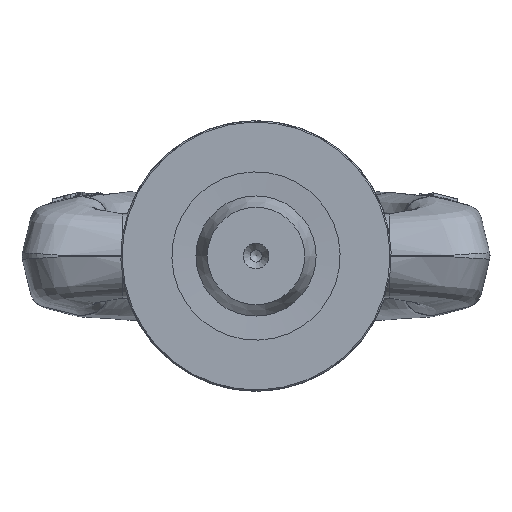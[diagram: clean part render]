
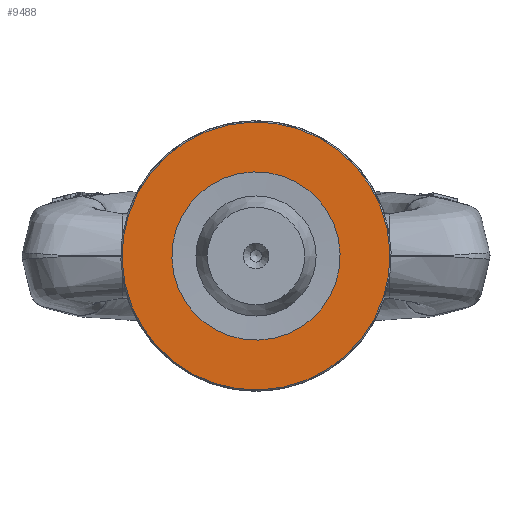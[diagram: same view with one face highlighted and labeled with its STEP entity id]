
A CAD part, front view. The second image highlights one B-rep face of the part: STEP entity #9488.
In plain terms, the highlighted planar face has unit normal (0, -1, 0) as drawn and (0, 0, -1) by its records, which use the part's own axes.
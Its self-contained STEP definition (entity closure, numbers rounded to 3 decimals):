
#2293=PLANE('',#10120);
#2393=FACE_BOUND('',#3565,.T.);
#2944=FACE_OUTER_BOUND('',#3564,.T.);
#3564=EDGE_LOOP('',(#8895));
#3565=EDGE_LOOP('',(#8896));
#3765=CIRCLE('',#10117,22.3);
#3767=CIRCLE('',#10121,14.);
#4699=VERTEX_POINT('',#27462);
#4701=VERTEX_POINT('',#27468);
#6101=EDGE_CURVE('',#4699,#4699,#3765,.T.);
#6103=EDGE_CURVE('',#4701,#4701,#3767,.T.);
#8895=ORIENTED_EDGE('',*,*,#6101,.F.);
#8896=ORIENTED_EDGE('',*,*,#6103,.F.);
#9488=ADVANCED_FACE('',(#2944,#2393),#2293,.F.);
#10117=AXIS2_PLACEMENT_3D('',#27463,#11738,#11739);
#10120=AXIS2_PLACEMENT_3D('',#27467,#11744,#11745);
#10121=AXIS2_PLACEMENT_3D('',#27469,#11746,#11747);
#11738=DIRECTION('center_axis',(0.,0.,1.));
#11739=DIRECTION('ref_axis',(-1.,0.,0.));
#11744=DIRECTION('center_axis',(0.,0.,1.));
#11745=DIRECTION('ref_axis',(1.,0.,0.));
#11746=DIRECTION('center_axis',(0.,0.,-1.));
#11747=DIRECTION('ref_axis',(-1.,0.,0.));
#27462=CARTESIAN_POINT('',(22.3,0.,0.));
#27463=CARTESIAN_POINT('Origin',(0.,0.,0.));
#27467=CARTESIAN_POINT('Origin',(0.,0.,0.));
#27468=CARTESIAN_POINT('',(14.,0.,0.));
#27469=CARTESIAN_POINT('Origin',(0.,0.,0.));
